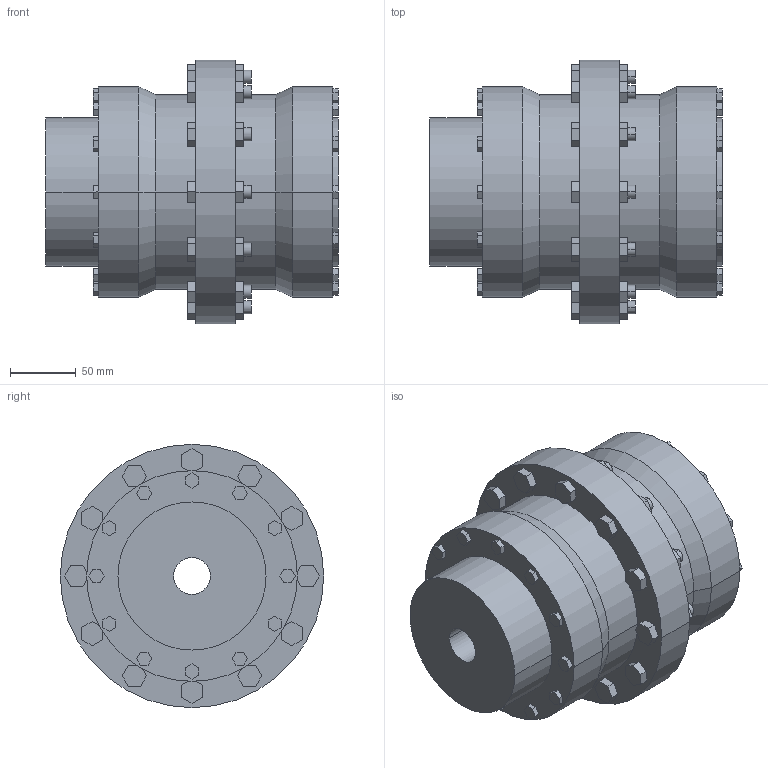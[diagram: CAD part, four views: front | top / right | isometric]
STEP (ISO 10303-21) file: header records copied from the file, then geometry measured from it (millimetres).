
FILE_DESCRIPTION((''),'2;1');
FILE_NAME('A19709000-0_ASM','2019-05-23T',('AB_Roschiwal'),('RENK AG'),'PRO/ENGINEER BY PARAMETRIC TECHNOLOGY CORPORATION, 2015440','PRO/ENGINEER BY PARAMETRIC TECHNOLOGY CORPORATION, 2015440','');
FILE_SCHEMA(('CONFIG_CONTROL_DESIGN'));
Length unit declared in the file: millimetre
Products named in the file (3): SBK70_GEHAEUSE; SBK70_NABE; A19709000-0_ASM
Assembly tree (3 placements, depth 2):
  A19709000-0_ASM
    SBK70_GEHAEUSE
    SBK70_NABE  x2
Bounding box: 222 x 200 x 200 mm (x, y, z)
Volume: 3153608.8 mm3; surface area: 369286.2 mm2
Topology: 3 solids, 3 shells, 422 faces, 1036 edges, 688 vertices
Faces by surface type: plane 362, cylinder 56, cone 4
Entity records: 12052 total; most frequent: CARTESIAN_POINT 2100, ORIENTED_EDGE 2024, DIRECTION 1940, EDGE_CURVE 1012, VECTOR 916, LINE 916, VERTEX_POINT 672, AXIS2_PLACEMENT_3D 512
